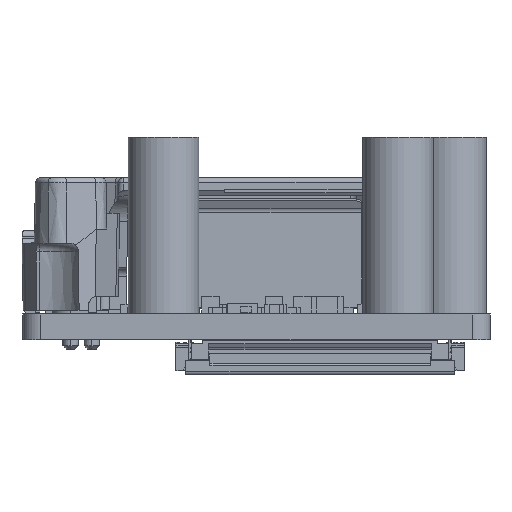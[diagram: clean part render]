
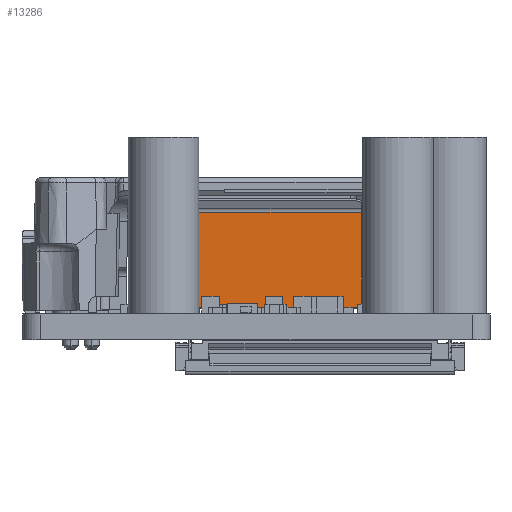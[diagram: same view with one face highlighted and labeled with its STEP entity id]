
A CAD part, left-side view. The second image highlights one B-rep face of the part: STEP entity #13286.
In plain terms, the highlighted planar face has unit normal (-1, 0, 0) as drawn and (0, 0, -1) by its records, which use the part's own axes.
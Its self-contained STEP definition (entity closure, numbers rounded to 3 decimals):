
#9776 = VERTEX_POINT('',#9777);
#9777 = CARTESIAN_POINT('',(-0.546,0.381,-1.029));
#9809 = VERTEX_POINT('',#9810);
#9810 = CARTESIAN_POINT('',(-5.931,0.381,-1.029));
#9817 = EDGE_CURVE('',#9809,#9776,#9818,.T.);
#9818 = LINE('',#9819,#9820);
#9819 = CARTESIAN_POINT('',(-5.931,0.381,-1.029));
#9820 = VECTOR('',#9821,1.);
#9821 = DIRECTION('',(1.,0.,0.));
#9834 = VERTEX_POINT('',#9835);
#9835 = CARTESIAN_POINT('',(0.546,0.381,-1.029));
#9841 = EDGE_CURVE('',#9834,#9842,#9844,.T.);
#9842 = VERTEX_POINT('',#9843);
#9843 = CARTESIAN_POINT('',(5.931,0.381,-1.029));
#9844 = LINE('',#9845,#9846);
#9845 = CARTESIAN_POINT('',(-5.931,0.381,-1.029));
#9846 = VECTOR('',#9847,1.);
#9847 = DIRECTION('',(1.,0.,0.));
#11769 = VERTEX_POINT('',#11770);
#11770 = CARTESIAN_POINT('',(-5.931,5.74,-1.029));
#11794 = VERTEX_POINT('',#11795);
#11795 = CARTESIAN_POINT('',(5.931,5.74,-1.029));
#13182 = EDGE_CURVE('',#9809,#11769,#13183,.T.);
#13183 = LINE('',#13184,#13185);
#13184 = CARTESIAN_POINT('',(-5.931,-13.111,-1.029));
#13185 = VECTOR('',#13186,1.);
#13186 = DIRECTION('',(0.,1.,0.));
#13275 = EDGE_CURVE('',#9842,#11794,#13276,.T.);
#13276 = LINE('',#13277,#13278);
#13277 = CARTESIAN_POINT('',(5.931,-13.111,-1.029));
#13278 = VECTOR('',#13279,1.);
#13279 = DIRECTION('',(0.,1.,0.));
#13286 = ADVANCED_FACE('',(#13287),#13339,.T.);
#13287 = FACE_BOUND('',#13288,.T.);
#13288 = EDGE_LOOP('',(#13289,#13290,#13291,#13299,#13308,#13316,#13325,
    #13331,#13332,#13333));
#13289 = ORIENTED_EDGE('',*,*,#13275,.F.);
#13290 = ORIENTED_EDGE('',*,*,#9841,.F.);
#13291 = ORIENTED_EDGE('',*,*,#13292,.T.);
#13292 = EDGE_CURVE('',#9834,#13293,#13295,.T.);
#13293 = VERTEX_POINT('',#13294);
#13294 = CARTESIAN_POINT('',(0.546,-0.457,-1.029));
#13295 = LINE('',#13296,#13297);
#13296 = CARTESIAN_POINT('',(0.546,0.381,-1.029));
#13297 = VECTOR('',#13298,1.);
#13298 = DIRECTION('',(0.,-1.,0.));
#13299 = ORIENTED_EDGE('',*,*,#13300,.T.);
#13300 = EDGE_CURVE('',#13293,#13301,#13303,.T.);
#13301 = VERTEX_POINT('',#13302);
#13302 = CARTESIAN_POINT('',(0.292,-0.711,-1.029));
#13303 = CIRCLE('',#13304,0.254);
#13304 = AXIS2_PLACEMENT_3D('',#13305,#13306,#13307);
#13305 = CARTESIAN_POINT('',(0.292,-0.457,-1.029));
#13306 = DIRECTION('',(0.,0.,-1.));
#13307 = DIRECTION('',(-1.,0.,0.));
#13308 = ORIENTED_EDGE('',*,*,#13309,.T.);
#13309 = EDGE_CURVE('',#13301,#13310,#13312,.T.);
#13310 = VERTEX_POINT('',#13311);
#13311 = CARTESIAN_POINT('',(-0.292,-0.711,-1.029));
#13312 = LINE('',#13313,#13314);
#13313 = CARTESIAN_POINT('',(0.292,-0.711,-1.029));
#13314 = VECTOR('',#13315,1.);
#13315 = DIRECTION('',(-1.,0.,0.));
#13316 = ORIENTED_EDGE('',*,*,#13317,.T.);
#13317 = EDGE_CURVE('',#13310,#13318,#13320,.T.);
#13318 = VERTEX_POINT('',#13319);
#13319 = CARTESIAN_POINT('',(-0.546,-0.457,-1.029));
#13320 = CIRCLE('',#13321,0.254);
#13321 = AXIS2_PLACEMENT_3D('',#13322,#13323,#13324);
#13322 = CARTESIAN_POINT('',(-0.292,-0.457,-1.029));
#13323 = DIRECTION('',(0.,0.,-1.));
#13324 = DIRECTION('',(-1.,0.,0.));
#13325 = ORIENTED_EDGE('',*,*,#13326,.T.);
#13326 = EDGE_CURVE('',#13318,#9776,#13327,.T.);
#13327 = LINE('',#13328,#13329);
#13328 = CARTESIAN_POINT('',(-0.546,-0.457,-1.029));
#13329 = VECTOR('',#13330,1.);
#13330 = DIRECTION('',(0.,1.,0.));
#13331 = ORIENTED_EDGE('',*,*,#9817,.F.);
#13332 = ORIENTED_EDGE('',*,*,#13182,.T.);
#13333 = ORIENTED_EDGE('',*,*,#13334,.F.);
#13334 = EDGE_CURVE('',#11794,#11769,#13335,.T.);
#13335 = LINE('',#13336,#13337);
#13336 = CARTESIAN_POINT('',(-5.931,5.74,-1.029));
#13337 = VECTOR('',#13338,1.);
#13338 = DIRECTION('',(-1.,0.,0.));
#13339 = PLANE('',#13340);
#13340 = AXIS2_PLACEMENT_3D('',#13341,#13342,#13343);
#13341 = CARTESIAN_POINT('',(-5.931,-13.111,-1.029));
#13342 = DIRECTION('',(0.,0.,-1.));
#13343 = DIRECTION('',(-1.,0.,0.));
